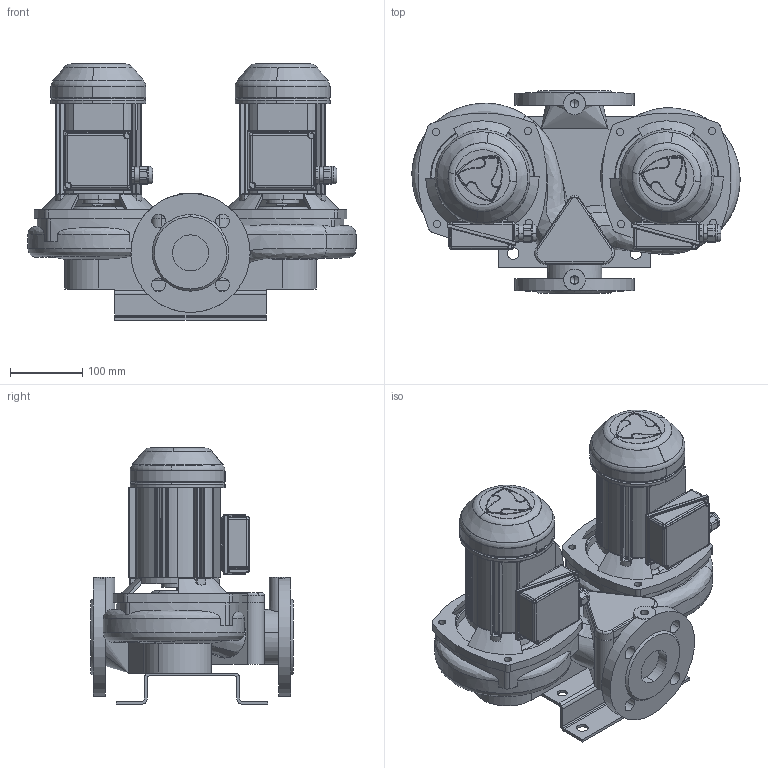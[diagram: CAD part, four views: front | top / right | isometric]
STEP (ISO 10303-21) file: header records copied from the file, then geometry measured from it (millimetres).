
FILE_DESCRIPTION(('STEP AP214'),'1');
FILE_NAME('export.stp','2018-05-30T07:39:40',(' '),(' '),'Spatial InterOp 3D',' ',' ');
FILE_SCHEMA(('AUTOMOTIVE_DESIGN { 1 0 10303 214 1 1 1 1 }'));
Length unit declared in the file: millimetre
Products named in the file (13): W_T50A4370_OP772; V_TLL50ABC; V_PPT50ABC; V_JALKA35973; V_MOP-722_F15; R201415; TSUOJA_OP_752; Kyt_kot_OP7; Kyt_kot_kansi_OP7; G44212; ILM20Tholkki; EK_OP7_F15
Assembly tree (20 placements, depth 3):
  W_T50A4370_OP772
    V_TLL50ABC  x2
    V_PPT50ABC
    V_JALKA35973
    V_MOP-722_F15
      R201415
      TSUOJA_OP_752
      Kyt_kot_OP7
      Kyt_kot_kansi_OP7
      G44212
      ILM20Tholkki
      EK_OP7_F15
    V_MOP-722_F15
      R201415
      TSUOJA_OP_752
      Kyt_kot_OP7
      Kyt_kot_kansi_OP7
      G44212
      ILM20Tholkki
      EK_OP7_F15
Bounding box: 454.48 x 280 x 354.63 mm (x, y, z)
Volume: 8347362 mm3; surface area: 1881309.4 mm2
Topology: 18 solids, 18 shells, 1490 faces, 3989 edges, 2544 vertices
Faces by surface type: cylinder 869, plane 408, cone 88, torus 58, bspline 35, sphere 32
Entity records: 43814 total; most frequent: CARTESIAN_POINT 9950, DIRECTION 4867, ORIENTED_EDGE 4544, EDGE_CURVE 2272, AXIS2_PLACEMENT_3D 1957, STYLED_ITEM 1792, PRESENTATION_STYLE_ASSIGNMENT 1792, COLOUR_RGB 1792
